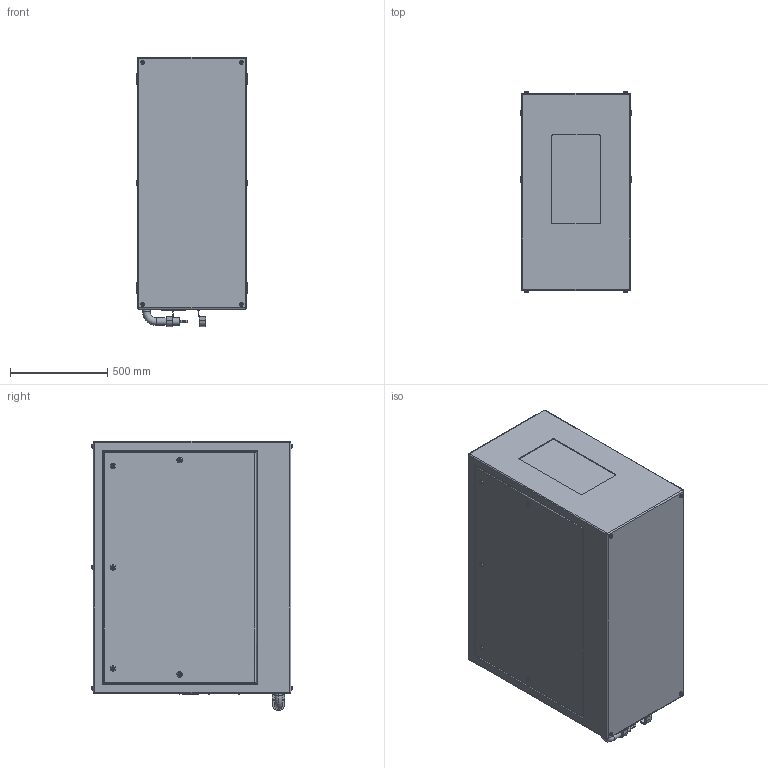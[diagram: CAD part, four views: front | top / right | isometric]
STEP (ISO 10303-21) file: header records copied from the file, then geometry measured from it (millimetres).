
FILE_DESCRIPTION (( 'STEP AP214' ), '1' );
FILE_NAME ('Oasis 59.210.P R02.STEP', '2022-08-27T16:05:33', ( '' ), ( '' ), 'SwSTEP 2.0', 'SolidWorks 2020', '' );
FILE_SCHEMA (( 'AUTOMOTIVE_DESIGN' ));
Length unit declared in the file: inch
Products named in the file (1): Oasis 59.210.P R02
Bounding box: 571.5 x 1033.27 x 1384.3 mm (x, y, z)
Volume: 734425551 mm3; surface area: 5737851.1 mm2
Topology: 2 solids, 8 shells, 555 faces, 1265 edges, 802 vertices
Faces by surface type: plane 307, cylinder 186, torus 54, bspline 8
Entity records: 21388 total; most frequent: CARTESIAN_POINT 3135, DIRECTION 2763, ORIENTED_EDGE 2514, EDGE_CURVE 1257, AXIS2_PLACEMENT_3D 990, VERTEX_POINT 802, VECTOR 783, LINE 783
